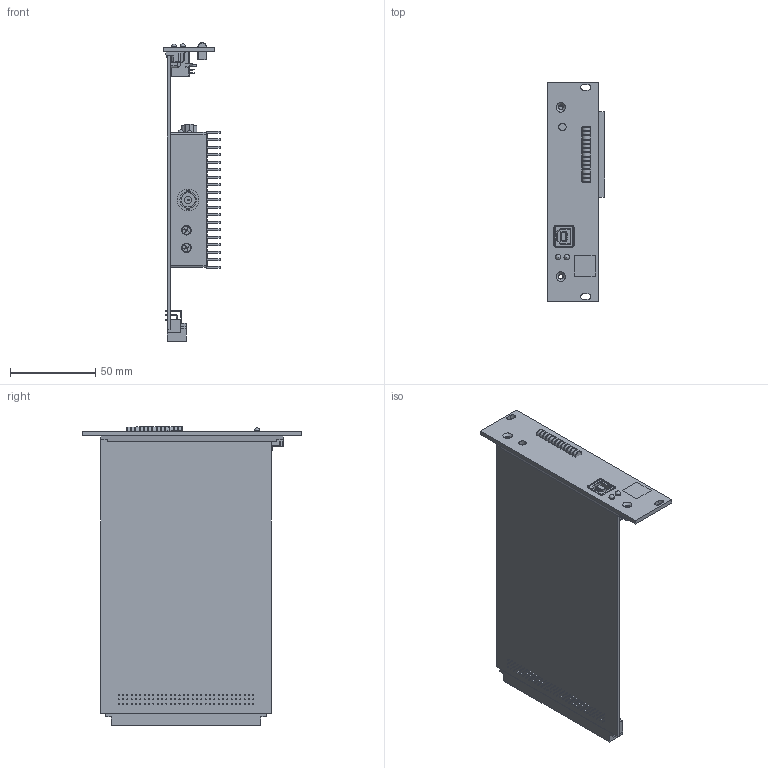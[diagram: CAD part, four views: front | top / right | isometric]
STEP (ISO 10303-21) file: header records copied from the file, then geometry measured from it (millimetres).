
FILE_DESCRIPTION(/* description */ (''),/* implementation_level */ '2;1');
FILE_NAME(/* name */ 'F:\daten\PRODUKTE\TELEMETR\AW\AW_ES\CAD AW_ES_MGC\kunde\ES_MGC.stp',/* time_stamp */ '2019-10-23T11:11:23+02:00',/* author */ ('dschaefer'),/* organization */ (''),/* preprocessor_version */ 'ST-DEVELOPER v16.5',/* originating_system */ 'Autodesk Inventor 2017',/* authorisation */ '');
FILE_SCHEMA (('AUTOMOTIVE_DESIGN { 1 0 10303 214 3 1 1 }'));
Length unit declared in the file: millimetre
Products named in the file (24): ES_MGC; Frontplatte_Logigkarte-01; LED-BAAR; LED_flach_5mm_LED_Balken_gelb; LED_flach_5mm_LED_Balken_grün; LED_flach_5mm_LED_Balken_rot; Platinen_attrape; 3mmLED; Aufkleberplatte; 60807-011; 67DEFAU0515123615447; 13142; ZSB_AW_D_15V_Sync; Gehaeuse_15V_Sync; A-DS 09 PP/Z; SW3dPS-BNC Panel Mount; 3mmLED_1; 3mmLED_2; Mutter_M2; ISO 1207  - M2 x 4; SMB-Buchse_J01160A0271; SMB-Mutter_J01160A0021; ISO 7046-1  - M2,5 x 3 - 4.8 - H; Kühldeckel
Assembly tree (37 placements, depth 3):
  ES_MGC
    Frontplatte_Logigkarte-01
    LED-BAAR
      LED_flach_5mm_LED_Balken_gelb
      LED_flach_5mm_LED_Balken_grün  x10
      LED_flach_5mm_LED_Balken_rot  x2
    Platinen_attrape
    3mmLED
    3mmLED_2
    Aufkleberplatte
    60807-011
    67DEFAU0515123615447
    13142
    ZSB_AW_D_15V_Sync
      Gehaeuse_15V_Sync
      A-DS 09 PP/Z
      SW3dPS-BNC Panel Mount
      3mmLED_1
      3mmLED_2
      Mutter_M2  x2
      ISO 1207  - M2 x 4  x2
      SMB-Buchse_J01160A0271
      SMB-Mutter_J01160A0021
      ISO 7046-1  - M2,5 x 3 - 4.8 - H  x2
    Kühldeckel
Bounding box: 33.85 x 128.4 x 174.8 mm (x, y, z)
Volume: 77907.6 mm3; surface area: 101759 mm2
Topology: 35 solids, 35 shells, 1686 faces, 3881 edges, 2344 vertices
Faces by surface type: plane 848, cylinder 613, sphere 100, cone 46, bspline 40, torus 39
Full cylindrical faces by diameter (mm): 0.6 x288, 0.65 x9, 0.686 x1, 1 x9, 1.067 x1, 1.5 x1, 1.54 x9, 1.567 x2, 1.754 x2, 1.88 x2, 2 x2, 2.1 x1, 2.108 x1, 2.156 x2, 2.2 x1, 2.224 x2, 2.3 x2, 2.459 x2, 2.5 x4, 2.6 x2, 2.642 x2, 2.7 x4, 2.8 x4, 3 x7, 3.2 x3, 3.5 x1, 3.7 x2, 3.962 x1, 4 x2, 4.3 x1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
Entity records: 41612 total; most frequent: CARTESIAN_POINT 8358, DIRECTION 7077, ORIENTED_EDGE 5634, EDGE_CURVE 2817, AXIS2_PLACEMENT_3D 2793, EDGE_LOOP 2220, VERTEX_POINT 2031, FACE_OUTER_BOUND 1495
